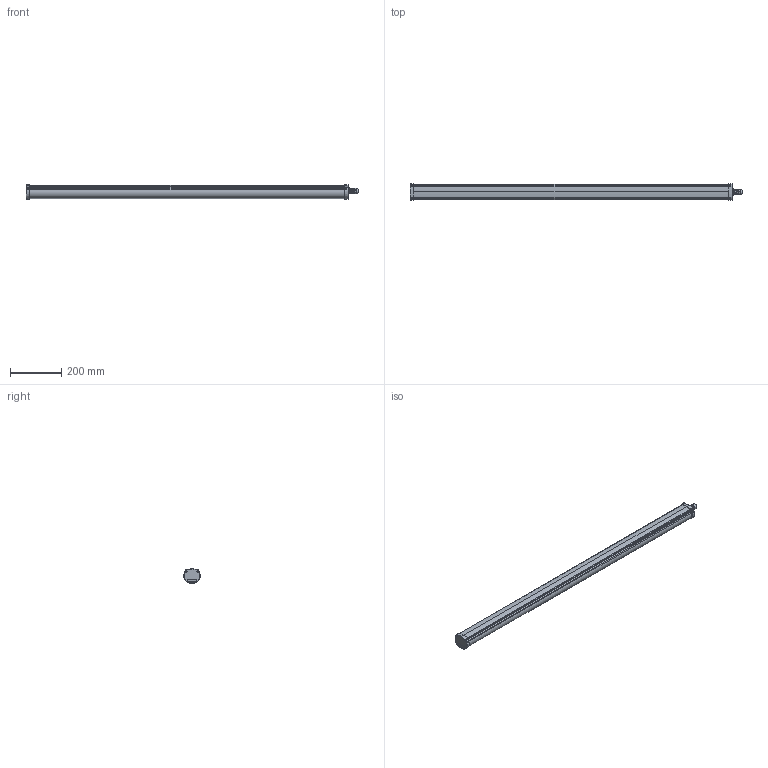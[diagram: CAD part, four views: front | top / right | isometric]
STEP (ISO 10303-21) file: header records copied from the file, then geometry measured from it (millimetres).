
FILE_DESCRIPTION(/* description */ (''),/* implementation_level */ '2;1');
FILE_NAME(/* name */ 'ZITA_SENSOR_CORRIDOR_IZTSI2.stp',/* time_stamp */ '2025-09-18T09:20:56+02:00',/* author */ ('gian.noche'),/* organization */ (''),/* preprocessor_version */ 'ST-DEVELOPER v19.2',/* originating_system */ 'Autodesk Inventor 2023',/* authorisation */ '');
FILE_SCHEMA (('AUTOMOTIVE_DESIGN { 1 0 10303 214 3 1 1 }'));
Length unit declared in the file: millimetre
Products named in the file (1): IDP_108_ZITA_SENSOR_1290_Semplifica_1
Bounding box: 1294.79 x 65.19 x 55.46 mm (x, y, z)
Volume: 3224193.4 mm3; surface area: 272773.6 mm2
Topology: 1 solids, 1 shells, 219 faces, 678 edges, 472 vertices
Faces by surface type: cylinder 98, plane 81, cone 31, torus 6, bspline 3
Full cylindrical faces by diameter (mm): 18.815 x1, 23 x1, 23.45 x1
Entity records: 8282 total; most frequent: CARTESIAN_POINT 2261, ORIENTED_EDGE 1356, DIRECTION 1231, EDGE_CURVE 678, AXIS2_PLACEMENT_3D 475, VERTEX_POINT 472, LINE 281, VECTOR 281
